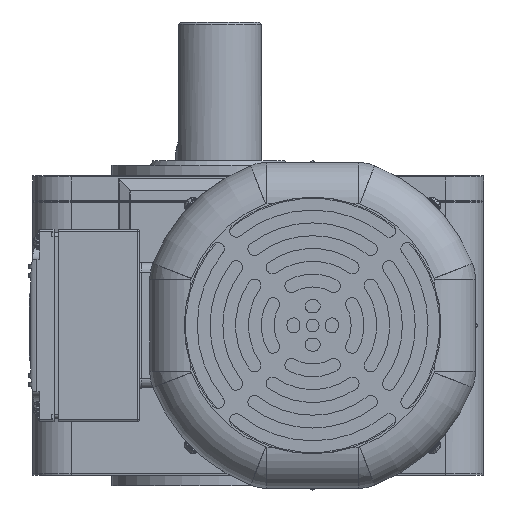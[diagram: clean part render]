
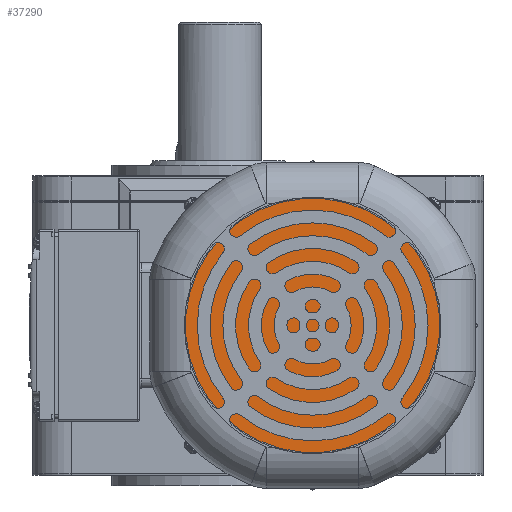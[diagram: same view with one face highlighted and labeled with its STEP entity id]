
A CAD part, left-side view. The second image highlights one B-rep face of the part: STEP entity #37290.
In plain terms, the highlighted planar face has unit normal (-1, 0, 0).
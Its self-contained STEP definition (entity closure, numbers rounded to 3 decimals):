
#1392=PLANE('',#41298);
#3343=FACE_OUTER_BOUND('',#5539,.T.);
#5539=EDGE_LOOP('',(#31946));
#7797=CIRCLE('',#41299,59.5);
#16806=VERTEX_POINT('',#67732);
#21943=EDGE_CURVE('',#16806,#16806,#7797,.T.);
#31946=ORIENTED_EDGE('',*,*,#21943,.F.);
#37290=ADVANCED_FACE('',(#3343),#1392,.F.);
#41298=AXIS2_PLACEMENT_3D('',#67731,#51652,#51653);
#41299=AXIS2_PLACEMENT_3D('',#67733,#51654,#51655);
#51652=DIRECTION('center_axis',(1.,0.,0.));
#51653=DIRECTION('ref_axis',(0.,-0.707,-0.707));
#51654=DIRECTION('center_axis',(1.,0.,0.));
#51655=DIRECTION('ref_axis',(0.,-0.707,-0.707));
#67731=CARTESIAN_POINT('Origin',(-408.7,-44.,0.));
#67732=CARTESIAN_POINT('',(-408.7,-1.927,42.073));
#67733=CARTESIAN_POINT('Origin',(-408.7,-44.,0.));
